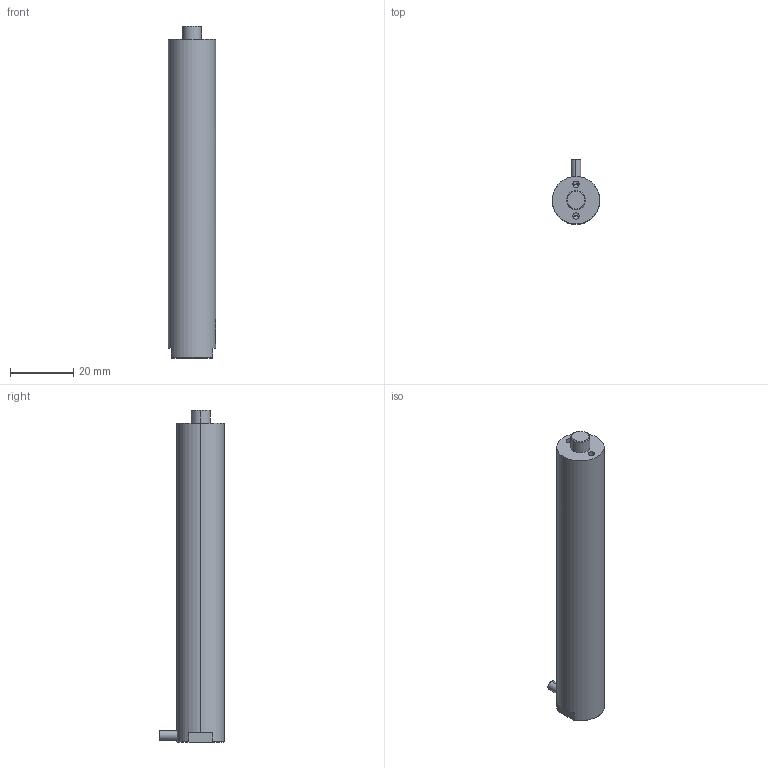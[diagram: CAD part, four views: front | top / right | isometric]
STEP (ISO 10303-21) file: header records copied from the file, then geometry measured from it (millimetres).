
FILE_DESCRIPTION (( 'STEP AP203' ), '1' );
FILE_NAME ('100VS15ƽͷ.STEP', '2024-11-30T06:26:12', ( 'daohangxitong.com' ), ( 'daohangxitong.com' ), 'SwSTEP 2.0', 'SolidWorks 2016', '' );
FILE_SCHEMA (( 'CONFIG_CONTROL_DESIGN' ));
Products named in the file (1): 100VS15ƽͷ
Bounding box: 15 x 20.5 x 104.8 mm (x, y, z)
Volume: 17848.9 mm3; surface area: 5287.9 mm2
Topology: 1 solids, 1 shells, 691 faces, 1973 edges, 1309 vertices
Faces by surface type: bspline 606, cylinder 43, plane 30, cone 12
Entity records: 39221 total; most frequent: CARTESIAN_POINT 26591, ORIENTED_EDGE 3934, EDGE_CURVE 1967, B_SPLINE_CURVE_WITH_KNOTS 1856, VERTEX_POINT 1309, EDGE_LOOP 722, ADVANCED_FACE 691, FACE_OUTER_BOUND 691
